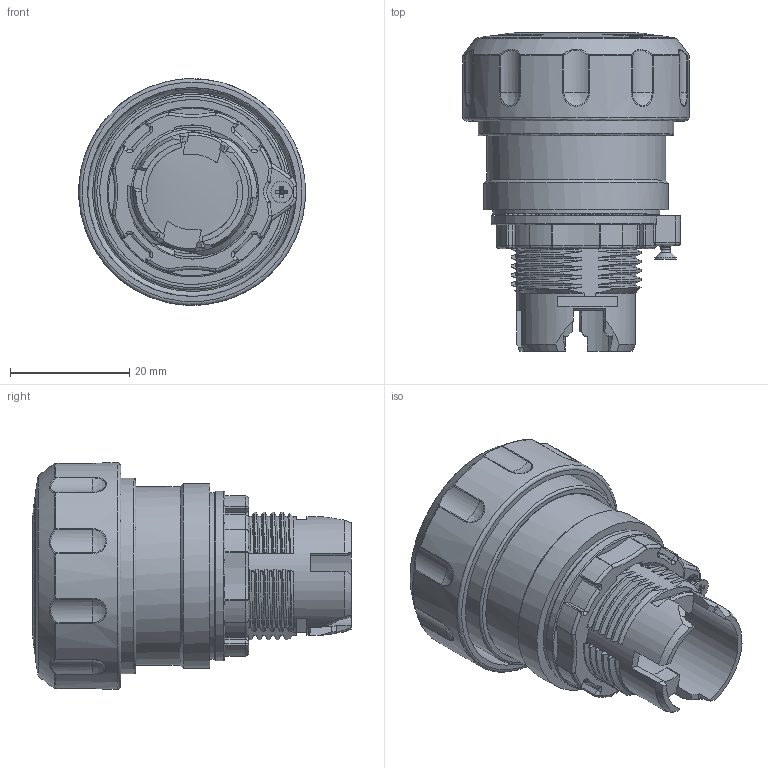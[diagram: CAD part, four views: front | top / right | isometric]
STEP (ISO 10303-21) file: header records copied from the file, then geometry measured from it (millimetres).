
FILE_DESCRIPTION(/* description */ (''),/* implementation_level */ '2;1');
FILE_NAME(/* name */ '_model1.stp',/* time_stamp */ '2024-05-17T18:22:36+08:00',/* author */ (''),/* organization */ (''),/* preprocessor_version */ 'ST-DEVELOPER v16',/* originating_system */ 'SIEMENS PLM Software NX 10.0',/* authorisation */ '');
FILE_SCHEMA (('AUTOMOTIVE_DESIGN { 1 0 10303 214 3 1 1 1 }'));
Length unit declared in the file: millimetre
Products named in the file (1): Admi20CC3240lufc
Bounding box: 37.96 x 53.4 x 38 mm (x, y, z)
Volume: 14113.1 mm3; surface area: 18356.3 mm2
Topology: 1 solids, 1 shells, 1200 faces, 3382 edges, 2172 vertices
Faces by surface type: cylinder 400, plane 358, bspline 285, revolution 132, cone 24, torus 1
Full cylindrical faces by diameter (mm): 1.6 x1, 3.6 x1, 7 x1, 17 x1, 18 x1, 19.2 x2, 19.9 x1, 20.8 x1, 21.6 x1, 21.8 x1, 22.5 x1, 26.8 x1, 28 x1, 30 x2, 31 x1, 32.8 x1, 35 x1, 38 x1
Entity records: 59384 total; most frequent: CARTESIAN_POINT 22786, ORIENTED_EDGE 6578, DIRECTION 4695, EDGE_CURVE 3289, VERTEX_POINT 2142, AXIS2_PLACEMENT_3D 1681, EDGE_LOOP 1393, B_SPLINE_CURVE_WITH_KNOTS 1212
